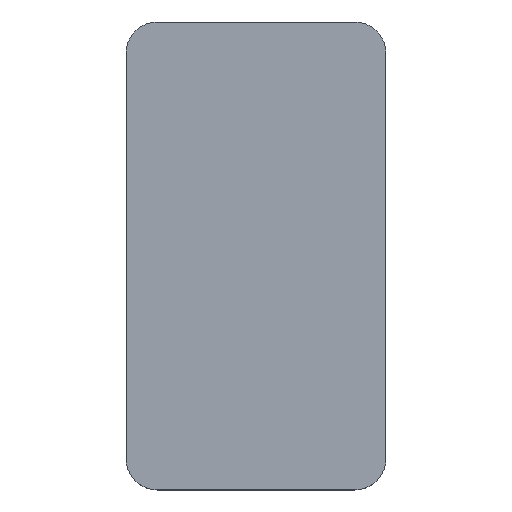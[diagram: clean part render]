
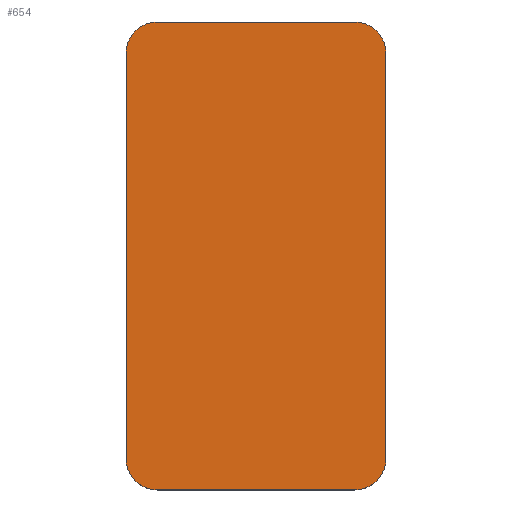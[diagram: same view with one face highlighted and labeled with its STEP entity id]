
A CAD part, top view. The second image highlights one B-rep face of the part: STEP entity #654.
In plain terms, the highlighted planar face has unit normal (0, 0, 1).
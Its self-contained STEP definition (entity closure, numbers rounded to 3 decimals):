
#24 = VERTEX_POINT('',#25);
#25 = CARTESIAN_POINT('',(-28.25,-35.65,-14.01));
#32 = PLANE('',#33);
#33 = AXIS2_PLACEMENT_3D('',#34,#35,#36);
#34 = CARTESIAN_POINT('',(-28.25,-35.65,-15.01));
#35 = DIRECTION('',(-1.,0.,0.));
#36 = DIRECTION('',(0.,1.,0.));
#44 = CYLINDRICAL_SURFACE('',#45,0.3);
#45 = AXIS2_PLACEMENT_3D('',#46,#47,#48);
#46 = CARTESIAN_POINT('',(-27.95,-35.65,-15.01));
#47 = DIRECTION('',(-0.,-0.,-1.));
#48 = DIRECTION('',(1.,0.,0.));
#56 = EDGE_CURVE('',#24,#57,#59,.T.);
#57 = VERTEX_POINT('',#58);
#58 = CARTESIAN_POINT('',(-28.25,-31.75,-14.01));
#59 = SURFACE_CURVE('',#60,(#64,#71),.PCURVE_S1.);
#60 = LINE('',#61,#62);
#61 = CARTESIAN_POINT('',(-28.25,-33.7,-14.01));
#62 = VECTOR('',#63,1.);
#63 = DIRECTION('',(0.,1.,0.));
#64 = PCURVE('',#32,#65);
#65 = DEFINITIONAL_REPRESENTATION('',(#66),#70);
#66 = LINE('',#67,#68);
#67 = CARTESIAN_POINT('',(1.95,-1.));
#68 = VECTOR('',#69,1.);
#69 = DIRECTION('',(1.,0.));
#70 = ( GEOMETRIC_REPRESENTATION_CONTEXT(2) 
PARAMETRIC_REPRESENTATION_CONTEXT() REPRESENTATION_CONTEXT('2D SPACE',''
  ) );
#71 = PCURVE('',#72,#77);
#72 = PLANE('',#73);
#73 = AXIS2_PLACEMENT_3D('',#74,#75,#76);
#74 = CARTESIAN_POINT('',(-27.,-33.7,-14.01));
#75 = DIRECTION('',(0.,0.,1.));
#76 = DIRECTION('',(1.,0.,0.));
#77 = DEFINITIONAL_REPRESENTATION('',(#78),#82);
#78 = LINE('',#79,#80);
#79 = CARTESIAN_POINT('',(-1.25,0.));
#80 = VECTOR('',#81,1.);
#81 = DIRECTION('',(0.,1.));
#82 = ( GEOMETRIC_REPRESENTATION_CONTEXT(2) 
PARAMETRIC_REPRESENTATION_CONTEXT() REPRESENTATION_CONTEXT('2D SPACE',''
  ) );
#100 = CYLINDRICAL_SURFACE('',#101,0.3);
#101 = AXIS2_PLACEMENT_3D('',#102,#103,#104);
#102 = CARTESIAN_POINT('',(-27.95,-31.75,-15.01));
#103 = DIRECTION('',(-0.,-0.,-1.));
#104 = DIRECTION('',(1.,0.,0.));
#142 = EDGE_CURVE('',#24,#143,#145,.T.);
#143 = VERTEX_POINT('',#144);
#144 = CARTESIAN_POINT('',(-27.95,-35.95,-14.01));
#145 = SURFACE_CURVE('',#146,(#151,#158),.PCURVE_S1.);
#146 = CIRCLE('',#147,0.3);
#147 = AXIS2_PLACEMENT_3D('',#148,#149,#150);
#148 = CARTESIAN_POINT('',(-27.95,-35.65,-14.01));
#149 = DIRECTION('',(0.,0.,1.));
#150 = DIRECTION('',(1.,0.,0.));
#151 = PCURVE('',#44,#152);
#152 = DEFINITIONAL_REPRESENTATION('',(#153),#157);
#153 = LINE('',#154,#155);
#154 = CARTESIAN_POINT('',(-0.,-1.));
#155 = VECTOR('',#156,1.);
#156 = DIRECTION('',(-1.,0.));
#157 = ( GEOMETRIC_REPRESENTATION_CONTEXT(2) 
PARAMETRIC_REPRESENTATION_CONTEXT() REPRESENTATION_CONTEXT('2D SPACE',''
  ) );
#158 = PCURVE('',#72,#159);
#159 = DEFINITIONAL_REPRESENTATION('',(#160),#164);
#160 = CIRCLE('',#161,0.3);
#161 = AXIS2_PLACEMENT_2D('',#162,#163);
#162 = CARTESIAN_POINT('',(-0.95,-1.95));
#163 = DIRECTION('',(1.,0.));
#164 = ( GEOMETRIC_REPRESENTATION_CONTEXT(2) 
PARAMETRIC_REPRESENTATION_CONTEXT() REPRESENTATION_CONTEXT('2D SPACE',''
  ) );
#182 = PLANE('',#183);
#183 = AXIS2_PLACEMENT_3D('',#184,#185,#186);
#184 = CARTESIAN_POINT('',(-27.95,-35.95,-15.01));
#185 = DIRECTION('',(0.,1.,0.));
#186 = DIRECTION('',(1.,0.,0.));
#220 = EDGE_CURVE('',#143,#221,#223,.T.);
#221 = VERTEX_POINT('',#222);
#222 = CARTESIAN_POINT('',(-26.05,-35.95,-14.01));
#223 = SURFACE_CURVE('',#224,(#228,#235),.PCURVE_S1.);
#224 = LINE('',#225,#226);
#225 = CARTESIAN_POINT('',(-27.,-35.95,-14.01));
#226 = VECTOR('',#227,1.);
#227 = DIRECTION('',(1.,0.,0.));
#228 = PCURVE('',#182,#229);
#229 = DEFINITIONAL_REPRESENTATION('',(#230),#234);
#230 = LINE('',#231,#232);
#231 = CARTESIAN_POINT('',(0.95,-1.));
#232 = VECTOR('',#233,1.);
#233 = DIRECTION('',(1.,0.));
#234 = ( GEOMETRIC_REPRESENTATION_CONTEXT(2) 
PARAMETRIC_REPRESENTATION_CONTEXT() REPRESENTATION_CONTEXT('2D SPACE',''
  ) );
#235 = PCURVE('',#72,#236);
#236 = DEFINITIONAL_REPRESENTATION('',(#237),#241);
#237 = LINE('',#238,#239);
#238 = CARTESIAN_POINT('',(0.,-2.25));
#239 = VECTOR('',#240,1.);
#240 = DIRECTION('',(1.,0.));
#241 = ( GEOMETRIC_REPRESENTATION_CONTEXT(2) 
PARAMETRIC_REPRESENTATION_CONTEXT() REPRESENTATION_CONTEXT('2D SPACE',''
  ) );
#259 = CYLINDRICAL_SURFACE('',#260,0.3);
#260 = AXIS2_PLACEMENT_3D('',#261,#262,#263);
#261 = CARTESIAN_POINT('',(-26.05,-35.65,-15.01));
#262 = DIRECTION('',(-0.,-0.,-1.));
#263 = DIRECTION('',(1.,0.,0.));
#296 = EDGE_CURVE('',#221,#297,#299,.T.);
#297 = VERTEX_POINT('',#298);
#298 = CARTESIAN_POINT('',(-25.75,-35.65,-14.01));
#299 = SURFACE_CURVE('',#300,(#305,#312),.PCURVE_S1.);
#300 = CIRCLE('',#301,0.3);
#301 = AXIS2_PLACEMENT_3D('',#302,#303,#304);
#302 = CARTESIAN_POINT('',(-26.05,-35.65,-14.01));
#303 = DIRECTION('',(0.,0.,1.));
#304 = DIRECTION('',(1.,0.,0.));
#305 = PCURVE('',#259,#306);
#306 = DEFINITIONAL_REPRESENTATION('',(#307),#311);
#307 = LINE('',#308,#309);
#308 = CARTESIAN_POINT('',(-0.,-1.));
#309 = VECTOR('',#310,1.);
#310 = DIRECTION('',(-1.,0.));
#311 = ( GEOMETRIC_REPRESENTATION_CONTEXT(2) 
PARAMETRIC_REPRESENTATION_CONTEXT() REPRESENTATION_CONTEXT('2D SPACE',''
  ) );
#312 = PCURVE('',#72,#313);
#313 = DEFINITIONAL_REPRESENTATION('',(#314),#318);
#314 = CIRCLE('',#315,0.3);
#315 = AXIS2_PLACEMENT_2D('',#316,#317);
#316 = CARTESIAN_POINT('',(0.95,-1.95));
#317 = DIRECTION('',(1.,0.));
#318 = ( GEOMETRIC_REPRESENTATION_CONTEXT(2) 
PARAMETRIC_REPRESENTATION_CONTEXT() REPRESENTATION_CONTEXT('2D SPACE',''
  ) );
#336 = PLANE('',#337);
#337 = AXIS2_PLACEMENT_3D('',#338,#339,#340);
#338 = CARTESIAN_POINT('',(-25.75,-35.65,-15.01));
#339 = DIRECTION('',(-1.,0.,0.));
#340 = DIRECTION('',(0.,1.,0.));
#374 = EDGE_CURVE('',#297,#375,#377,.T.);
#375 = VERTEX_POINT('',#376);
#376 = CARTESIAN_POINT('',(-25.75,-31.75,-14.01));
#377 = SURFACE_CURVE('',#378,(#382,#389),.PCURVE_S1.);
#378 = LINE('',#379,#380);
#379 = CARTESIAN_POINT('',(-25.75,-33.7,-14.01));
#380 = VECTOR('',#381,1.);
#381 = DIRECTION('',(0.,1.,0.));
#382 = PCURVE('',#336,#383);
#383 = DEFINITIONAL_REPRESENTATION('',(#384),#388);
#384 = LINE('',#385,#386);
#385 = CARTESIAN_POINT('',(1.95,-1.));
#386 = VECTOR('',#387,1.);
#387 = DIRECTION('',(1.,0.));
#388 = ( GEOMETRIC_REPRESENTATION_CONTEXT(2) 
PARAMETRIC_REPRESENTATION_CONTEXT() REPRESENTATION_CONTEXT('2D SPACE',''
  ) );
#389 = PCURVE('',#72,#390);
#390 = DEFINITIONAL_REPRESENTATION('',(#391),#395);
#391 = LINE('',#392,#393);
#392 = CARTESIAN_POINT('',(1.25,0.));
#393 = VECTOR('',#394,1.);
#394 = DIRECTION('',(0.,1.));
#395 = ( GEOMETRIC_REPRESENTATION_CONTEXT(2) 
PARAMETRIC_REPRESENTATION_CONTEXT() REPRESENTATION_CONTEXT('2D SPACE',''
  ) );
#413 = CYLINDRICAL_SURFACE('',#414,0.3);
#414 = AXIS2_PLACEMENT_3D('',#415,#416,#417);
#415 = CARTESIAN_POINT('',(-26.05,-31.75,-15.01));
#416 = DIRECTION('',(-0.,-0.,-1.));
#417 = DIRECTION('',(1.,0.,0.));
#450 = EDGE_CURVE('',#375,#451,#453,.T.);
#451 = VERTEX_POINT('',#452);
#452 = CARTESIAN_POINT('',(-26.05,-31.45,-14.01));
#453 = SURFACE_CURVE('',#454,(#459,#466),.PCURVE_S1.);
#454 = CIRCLE('',#455,0.3);
#455 = AXIS2_PLACEMENT_3D('',#456,#457,#458);
#456 = CARTESIAN_POINT('',(-26.05,-31.75,-14.01));
#457 = DIRECTION('',(0.,0.,1.));
#458 = DIRECTION('',(1.,0.,0.));
#459 = PCURVE('',#413,#460);
#460 = DEFINITIONAL_REPRESENTATION('',(#461),#465);
#461 = LINE('',#462,#463);
#462 = CARTESIAN_POINT('',(-0.,-1.));
#463 = VECTOR('',#464,1.);
#464 = DIRECTION('',(-1.,0.));
#465 = ( GEOMETRIC_REPRESENTATION_CONTEXT(2) 
PARAMETRIC_REPRESENTATION_CONTEXT() REPRESENTATION_CONTEXT('2D SPACE',''
  ) );
#466 = PCURVE('',#72,#467);
#467 = DEFINITIONAL_REPRESENTATION('',(#468),#472);
#468 = CIRCLE('',#469,0.3);
#469 = AXIS2_PLACEMENT_2D('',#470,#471);
#470 = CARTESIAN_POINT('',(0.95,1.95));
#471 = DIRECTION('',(1.,0.));
#472 = ( GEOMETRIC_REPRESENTATION_CONTEXT(2) 
PARAMETRIC_REPRESENTATION_CONTEXT() REPRESENTATION_CONTEXT('2D SPACE',''
  ) );
#490 = PLANE('',#491);
#491 = AXIS2_PLACEMENT_3D('',#492,#493,#494);
#492 = CARTESIAN_POINT('',(-27.95,-31.45,-15.01));
#493 = DIRECTION('',(0.,1.,0.));
#494 = DIRECTION('',(1.,0.,0.));
#530 = VERTEX_POINT('',#531);
#531 = CARTESIAN_POINT('',(-27.95,-31.45,-14.01));
#552 = EDGE_CURVE('',#530,#451,#553,.T.);
#553 = SURFACE_CURVE('',#554,(#558,#565),.PCURVE_S1.);
#554 = LINE('',#555,#556);
#555 = CARTESIAN_POINT('',(-27.,-31.45,-14.01));
#556 = VECTOR('',#557,1.);
#557 = DIRECTION('',(1.,0.,0.));
#558 = PCURVE('',#490,#559);
#559 = DEFINITIONAL_REPRESENTATION('',(#560),#564);
#560 = LINE('',#561,#562);
#561 = CARTESIAN_POINT('',(0.95,-1.));
#562 = VECTOR('',#563,1.);
#563 = DIRECTION('',(1.,0.));
#564 = ( GEOMETRIC_REPRESENTATION_CONTEXT(2) 
PARAMETRIC_REPRESENTATION_CONTEXT() REPRESENTATION_CONTEXT('2D SPACE',''
  ) );
#565 = PCURVE('',#72,#566);
#566 = DEFINITIONAL_REPRESENTATION('',(#567),#571);
#567 = LINE('',#568,#569);
#568 = CARTESIAN_POINT('',(0.,2.25));
#569 = VECTOR('',#570,1.);
#570 = DIRECTION('',(1.,0.));
#571 = ( GEOMETRIC_REPRESENTATION_CONTEXT(2) 
PARAMETRIC_REPRESENTATION_CONTEXT() REPRESENTATION_CONTEXT('2D SPACE',''
  ) );
#599 = EDGE_CURVE('',#530,#57,#600,.T.);
#600 = SURFACE_CURVE('',#601,(#606,#613),.PCURVE_S1.);
#601 = CIRCLE('',#602,0.3);
#602 = AXIS2_PLACEMENT_3D('',#603,#604,#605);
#603 = CARTESIAN_POINT('',(-27.95,-31.75,-14.01));
#604 = DIRECTION('',(0.,0.,1.));
#605 = DIRECTION('',(1.,0.,0.));
#606 = PCURVE('',#100,#607);
#607 = DEFINITIONAL_REPRESENTATION('',(#608),#612);
#608 = LINE('',#609,#610);
#609 = CARTESIAN_POINT('',(-0.,-1.));
#610 = VECTOR('',#611,1.);
#611 = DIRECTION('',(-1.,0.));
#612 = ( GEOMETRIC_REPRESENTATION_CONTEXT(2) 
PARAMETRIC_REPRESENTATION_CONTEXT() REPRESENTATION_CONTEXT('2D SPACE',''
  ) );
#613 = PCURVE('',#72,#614);
#614 = DEFINITIONAL_REPRESENTATION('',(#615),#619);
#615 = CIRCLE('',#616,0.3);
#616 = AXIS2_PLACEMENT_2D('',#617,#618);
#617 = CARTESIAN_POINT('',(-0.95,1.95));
#618 = DIRECTION('',(1.,0.));
#619 = ( GEOMETRIC_REPRESENTATION_CONTEXT(2) 
PARAMETRIC_REPRESENTATION_CONTEXT() REPRESENTATION_CONTEXT('2D SPACE',''
  ) );
#654 = ADVANCED_FACE('',(#655),#72,.T.);
#655 = FACE_BOUND('',#656,.T.);
#656 = EDGE_LOOP('',(#657,#658,#659,#660,#661,#662,#663,#664));
#657 = ORIENTED_EDGE('',*,*,#56,.F.);
#658 = ORIENTED_EDGE('',*,*,#142,.T.);
#659 = ORIENTED_EDGE('',*,*,#220,.T.);
#660 = ORIENTED_EDGE('',*,*,#296,.T.);
#661 = ORIENTED_EDGE('',*,*,#374,.T.);
#662 = ORIENTED_EDGE('',*,*,#450,.T.);
#663 = ORIENTED_EDGE('',*,*,#552,.F.);
#664 = ORIENTED_EDGE('',*,*,#599,.T.);
